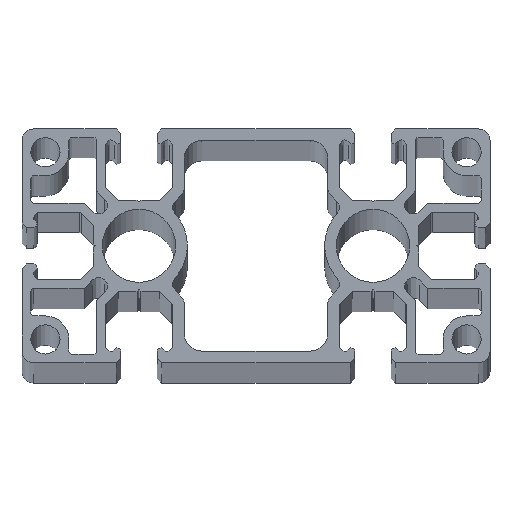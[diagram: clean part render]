
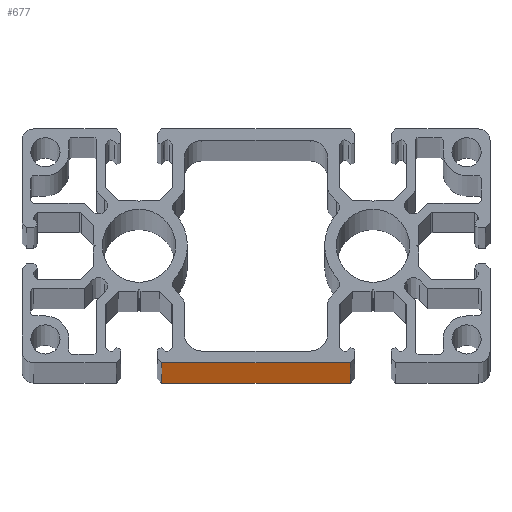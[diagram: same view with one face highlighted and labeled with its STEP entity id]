
A CAD part, top view. The second image highlights one B-rep face of the part: STEP entity #677.
In plain terms, the highlighted planar face has unit normal (0, -1, 0).
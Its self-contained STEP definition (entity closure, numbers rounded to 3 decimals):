
#677=ADVANCED_FACE('',(#1391),#1392,.F.);
#1391=FACE_OUTER_BOUND('',#2142,.T.);
#1392=PLANE('',#2143);
#2142=EDGE_LOOP('',(#4191,#4192,#4193,#4194));
#2143=AXIS2_PLACEMENT_3D('',#4195,#4196,#4197);
#4191=ORIENTED_EDGE('',*,*,#5207,.T.);
#4192=ORIENTED_EDGE('',*,*,#5503,.T.);
#4193=ORIENTED_EDGE('',*,*,#5357,.F.);
#4194=ORIENTED_EDGE('',*,*,#5504,.T.);
#4195=CARTESIAN_POINT('',(23.1,-20.0,500.0));
#4196=DIRECTION('',(0.,1.0,0.));
#4197=DIRECTION('',(1.0,0.,0.));
#5207=EDGE_CURVE('',#6510,#6508,#6511,.T.);
#5357=EDGE_CURVE('',#6729,#6731,#6732,.T.);
#5503=EDGE_CURVE('',#6508,#6731,#6904,.T.);
#5504=EDGE_CURVE('',#6729,#6510,#6905,.T.);
#6508=VERTEX_POINT('',#8161);
#6510=VERTEX_POINT('',#8164);
#6511=LINE('',#8165,#8166);
#6729=VERTEX_POINT('',#8513);
#6731=VERTEX_POINT('',#8516);
#6732=LINE('',#8517,#8518);
#6904=LINE('',#8777,#8778);
#6905=LINE('',#8779,#8780);
#8161=CARTESIAN_POINT('',(16.1,-20.0,-500.0));
#8164=CARTESIAN_POINT('',(-16.1,-20.0,-500.0));
#8165=CARTESIAN_POINT('',(-16.9,-20.0,-500.0));
#8166=VECTOR('',#9696,1.0);
#8513=CARTESIAN_POINT('',(-16.1,-20.0,1500.0));
#8516=CARTESIAN_POINT('',(16.1,-20.0,1500.0));
#8517=CARTESIAN_POINT('',(-16.9,-20.0,1500.0));
#8518=VECTOR('',#9854,1.0);
#8777=CARTESIAN_POINT('',(16.1,-20.0,500.0));
#8778=VECTOR('',#9951,1.0);
#8779=CARTESIAN_POINT('',(-16.1,-20.0,500.0));
#8780=VECTOR('',#9952,1.0);
#9696=DIRECTION('',(1.0,0.0,0.0));
#9854=DIRECTION('',(1.0,0.0,0.0));
#9951=DIRECTION('',(0.0,0.0,1.0));
#9952=DIRECTION('',(0.0,0.0,-1.0));
